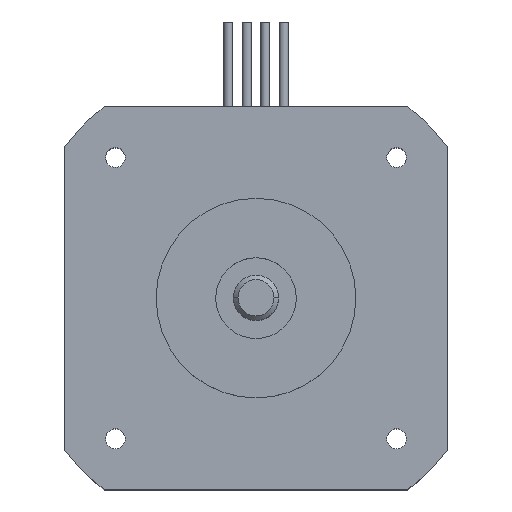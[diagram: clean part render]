
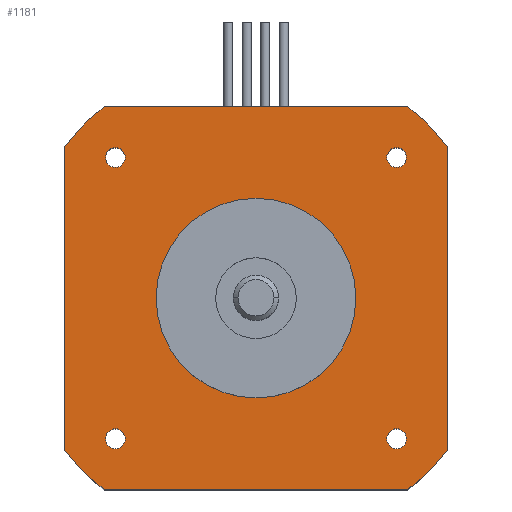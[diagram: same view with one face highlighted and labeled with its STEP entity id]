
A CAD part, top view. The second image highlights one B-rep face of the part: STEP entity #1181.
In plain terms, the highlighted planar face has unit normal (0, 0, 1).
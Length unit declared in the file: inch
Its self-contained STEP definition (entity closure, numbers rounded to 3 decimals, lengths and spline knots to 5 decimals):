
#99=CARTESIAN_POINT('',(-0.653,0.61,1.34));
#100=VERTEX_POINT('',#99);
#116=CARTESIAN_POINT('',(-0.567,0.61,1.34));
#117=VERTEX_POINT('',#116);
#124=CARTESIAN_POINT('',(-0.61,0.61,1.34));
#125=DIRECTION('',(0.0,0.0,-1.0));
#126=DIRECTION('',(-1.0,0.0,0.0));
#127=AXIS2_PLACEMENT_3D('',#124,#125,#126);
#128=CIRCLE('',#127,0.043);
#129=EDGE_CURVE('',#100,#117,#128,.T.);
#141=CARTESIAN_POINT('',(0.61,0.653,1.34));
#142=VERTEX_POINT('',#141);
#158=CARTESIAN_POINT('',(0.61,0.567,1.34));
#159=VERTEX_POINT('',#158);
#166=CARTESIAN_POINT('',(0.61,0.61,1.34));
#167=DIRECTION('',(0.0,0.0,-1.0));
#168=DIRECTION('',(0.0,1.0,0.0));
#169=AXIS2_PLACEMENT_3D('',#166,#167,#168);
#170=CIRCLE('',#169,0.043);
#171=EDGE_CURVE('',#142,#159,#170,.T.);
#183=CARTESIAN_POINT('',(-0.61,-0.653,1.34));
#184=VERTEX_POINT('',#183);
#200=CARTESIAN_POINT('',(-0.61,-0.567,1.34));
#201=VERTEX_POINT('',#200);
#208=CARTESIAN_POINT('',(-0.61,-0.61,1.34));
#209=DIRECTION('',(0.0,0.0,-1.0));
#210=DIRECTION('',(0.0,-1.0,0.0));
#211=AXIS2_PLACEMENT_3D('',#208,#209,#210);
#212=CIRCLE('',#211,0.043);
#213=EDGE_CURVE('',#184,#201,#212,.T.);
#225=CARTESIAN_POINT('',(0.653,-0.61,1.34));
#226=VERTEX_POINT('',#225);
#242=CARTESIAN_POINT('',(0.567,-0.61,1.34));
#243=VERTEX_POINT('',#242);
#250=CARTESIAN_POINT('',(0.61,-0.61,1.34));
#251=DIRECTION('',(0.0,0.0,-1.0));
#252=DIRECTION('',(1.0,0.0,0.0));
#253=AXIS2_PLACEMENT_3D('',#250,#251,#252);
#254=CIRCLE('',#253,0.043);
#255=EDGE_CURVE('',#226,#243,#254,.T.);
#265=CARTESIAN_POINT('',(-0.433,0.,1.34));
#266=VERTEX_POINT('',#265);
#275=CARTESIAN_POINT('',(0.433,0.,1.34));
#276=VERTEX_POINT('',#275);
#277=CARTESIAN_POINT('',(0.0,0.0,1.34));
#278=DIRECTION('',(0.0,0.0,-1.0));
#279=DIRECTION('',(-1.0,0.0,0.0));
#280=AXIS2_PLACEMENT_3D('',#277,#278,#279);
#281=CIRCLE('',#280,0.433);
#282=EDGE_CURVE('',#276,#266,#281,.T.);
#779=CARTESIAN_POINT('',(-0.83,0.65932,1.34));
#780=VERTEX_POINT('',#779);
#789=CARTESIAN_POINT('',(-0.65932,0.83,1.34));
#790=VERTEX_POINT('',#789);
#791=CARTESIAN_POINT('',(0.0,0.0,1.34));
#792=DIRECTION('',(0.0,0.0,1.0));
#793=DIRECTION('',(1.0,0.0,0.0));
#794=AXIS2_PLACEMENT_3D('',#791,#792,#793);
#795=CIRCLE('',#794,1.06);
#796=EDGE_CURVE('',#790,#780,#795,.T.);
#821=CARTESIAN_POINT('',(0.65932,0.83,1.34));
#822=VERTEX_POINT('',#821);
#831=CARTESIAN_POINT('',(0.83,0.65932,1.34));
#832=VERTEX_POINT('',#831);
#833=CARTESIAN_POINT('',(0.0,0.0,1.34));
#834=DIRECTION('',(0.0,0.0,1.0));
#835=DIRECTION('',(1.0,0.0,0.0));
#836=AXIS2_PLACEMENT_3D('',#833,#834,#835);
#837=CIRCLE('',#836,1.06);
#838=EDGE_CURVE('',#832,#822,#837,.T.);
#863=CARTESIAN_POINT('',(0.83,-0.65932,1.34));
#864=VERTEX_POINT('',#863);
#873=CARTESIAN_POINT('',(0.65932,-0.83,1.34));
#874=VERTEX_POINT('',#873);
#875=CARTESIAN_POINT('',(0.0,0.0,1.34));
#876=DIRECTION('',(0.0,0.0,1.0));
#877=DIRECTION('',(1.0,0.0,0.0));
#878=AXIS2_PLACEMENT_3D('',#875,#876,#877);
#879=CIRCLE('',#878,1.06);
#880=EDGE_CURVE('',#874,#864,#879,.T.);
#905=CARTESIAN_POINT('',(-0.65932,-0.83,1.34));
#906=VERTEX_POINT('',#905);
#915=CARTESIAN_POINT('',(-0.83,-0.65932,1.34));
#916=VERTEX_POINT('',#915);
#917=CARTESIAN_POINT('',(0.0,0.0,1.34));
#918=DIRECTION('',(0.0,0.0,1.0));
#919=DIRECTION('',(1.0,0.0,0.0));
#920=AXIS2_PLACEMENT_3D('',#917,#918,#919);
#921=CIRCLE('',#920,1.06);
#922=EDGE_CURVE('',#916,#906,#921,.T.);
#1034=CARTESIAN_POINT('',(-0.83,0.65932,1.34));
#1035=DIRECTION('',(0.0,-1.0,0.0));
#1036=VECTOR('',#1035,1.31864);
#1037=LINE('',#1034,#1036);
#1038=EDGE_CURVE('',#780,#916,#1037,.T.);
#1083=CARTESIAN_POINT('',(0.0,0.0,1.34));
#1084=DIRECTION('',(0.0,0.0,-1.0));
#1085=DIRECTION('',(-1.0,0.0,0.0));
#1086=AXIS2_PLACEMENT_3D('',#1083,#1084,#1085);
#1087=CIRCLE('',#1086,0.433);
#1088=EDGE_CURVE('',#266,#276,#1087,.T.);
#1107=CARTESIAN_POINT('',(0.0,0.0,1.34));
#1108=DIRECTION('',(0.0,0.0,1.0));
#1109=DIRECTION('',(1.0,0.0,0.0));
#1110=AXIS2_PLACEMENT_3D('',#1107,#1108,#1109);
#1111=PLANE('',#1110);
#1112=ORIENTED_EDGE('',*,*,#922,.T.);
#1113=CARTESIAN_POINT('',(-0.65932,-0.83,1.34));
#1114=DIRECTION('',(1.0,0.0,0.0));
#1115=VECTOR('',#1114,1.31864);
#1116=LINE('',#1113,#1115);
#1117=EDGE_CURVE('',#906,#874,#1116,.T.);
#1118=ORIENTED_EDGE('',*,*,#1117,.T.);
#1119=ORIENTED_EDGE('',*,*,#880,.T.);
#1120=CARTESIAN_POINT('',(0.83,-0.65932,1.34));
#1121=DIRECTION('',(0.0,1.0,0.0));
#1122=VECTOR('',#1121,1.31864);
#1123=LINE('',#1120,#1122);
#1124=EDGE_CURVE('',#864,#832,#1123,.T.);
#1125=ORIENTED_EDGE('',*,*,#1124,.T.);
#1126=ORIENTED_EDGE('',*,*,#838,.T.);
#1127=CARTESIAN_POINT('',(0.65932,0.83,1.34));
#1128=DIRECTION('',(-1.0,0.0,0.0));
#1129=VECTOR('',#1128,1.31864);
#1130=LINE('',#1127,#1129);
#1131=EDGE_CURVE('',#822,#790,#1130,.T.);
#1132=ORIENTED_EDGE('',*,*,#1131,.T.);
#1133=ORIENTED_EDGE('',*,*,#796,.T.);
#1134=ORIENTED_EDGE('',*,*,#1038,.T.);
#1135=EDGE_LOOP('',(#1112,#1118,#1119,#1125,#1126,#1132,#1133,#1134));
#1136=FACE_OUTER_BOUND('',#1135,.T.);
#1137=CARTESIAN_POINT('',(-0.61,0.61,1.34));
#1138=DIRECTION('',(0.0,0.0,-1.0));
#1139=DIRECTION('',(-1.0,0.0,0.0));
#1140=AXIS2_PLACEMENT_3D('',#1137,#1138,#1139);
#1141=CIRCLE('',#1140,0.043);
#1142=EDGE_CURVE('',#117,#100,#1141,.T.);
#1143=ORIENTED_EDGE('',*,*,#1142,.T.);
#1144=ORIENTED_EDGE('',*,*,#129,.T.);
#1145=EDGE_LOOP('',(#1143,#1144));
#1146=FACE_BOUND('',#1145,.T.);
#1147=CARTESIAN_POINT('',(0.61,0.61,1.34));
#1148=DIRECTION('',(0.0,0.0,-1.0));
#1149=DIRECTION('',(0.0,1.0,0.0));
#1150=AXIS2_PLACEMENT_3D('',#1147,#1148,#1149);
#1151=CIRCLE('',#1150,0.043);
#1152=EDGE_CURVE('',#159,#142,#1151,.T.);
#1153=ORIENTED_EDGE('',*,*,#1152,.T.);
#1154=ORIENTED_EDGE('',*,*,#171,.T.);
#1155=EDGE_LOOP('',(#1153,#1154));
#1156=FACE_BOUND('',#1155,.T.);
#1157=CARTESIAN_POINT('',(-0.61,-0.61,1.34));
#1158=DIRECTION('',(0.0,0.0,-1.0));
#1159=DIRECTION('',(0.0,-1.0,0.0));
#1160=AXIS2_PLACEMENT_3D('',#1157,#1158,#1159);
#1161=CIRCLE('',#1160,0.043);
#1162=EDGE_CURVE('',#201,#184,#1161,.T.);
#1163=ORIENTED_EDGE('',*,*,#1162,.T.);
#1164=ORIENTED_EDGE('',*,*,#213,.T.);
#1165=EDGE_LOOP('',(#1163,#1164));
#1166=FACE_BOUND('',#1165,.T.);
#1167=CARTESIAN_POINT('',(0.61,-0.61,1.34));
#1168=DIRECTION('',(0.0,0.0,-1.0));
#1169=DIRECTION('',(1.0,0.0,0.0));
#1170=AXIS2_PLACEMENT_3D('',#1167,#1168,#1169);
#1171=CIRCLE('',#1170,0.043);
#1172=EDGE_CURVE('',#243,#226,#1171,.T.);
#1173=ORIENTED_EDGE('',*,*,#1172,.T.);
#1174=ORIENTED_EDGE('',*,*,#255,.T.);
#1175=EDGE_LOOP('',(#1173,#1174));
#1176=FACE_BOUND('',#1175,.T.);
#1177=ORIENTED_EDGE('',*,*,#282,.T.);
#1178=ORIENTED_EDGE('',*,*,#1088,.T.);
#1179=EDGE_LOOP('',(#1177,#1178));
#1180=FACE_BOUND('',#1179,.T.);
#1181=ADVANCED_FACE('',(#1136,#1146,#1156,#1166,#1176,#1180),#1111,.T.);
